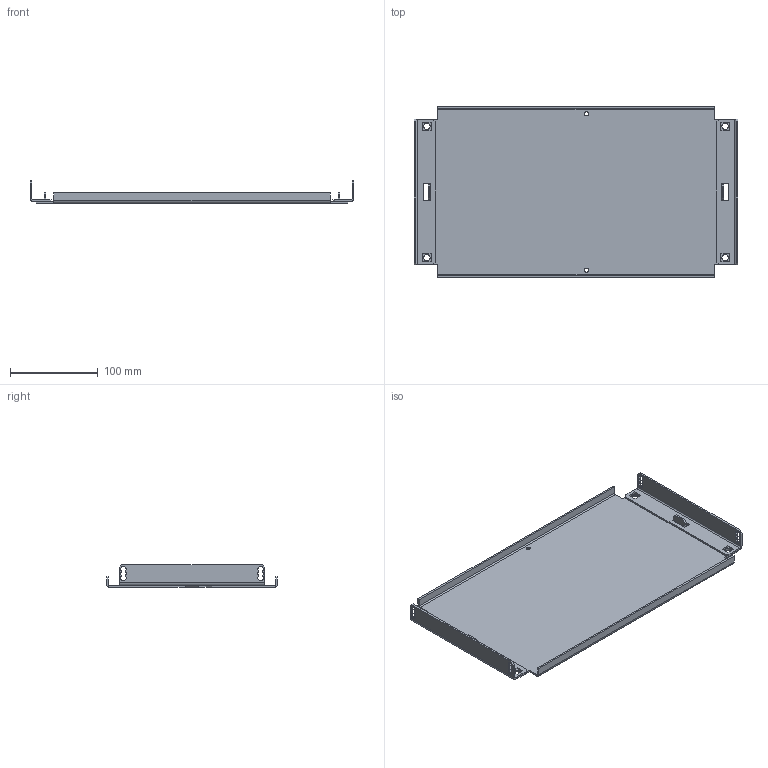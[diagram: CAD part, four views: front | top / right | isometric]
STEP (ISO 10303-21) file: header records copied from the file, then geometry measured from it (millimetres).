
FILE_DESCRIPTION(('STEP AP203'), '1');
FILE_NAME('Ïàíåëü ìîíòàæíàÿ ãëóõàÿ Â200õØ400 ìì OptiBox M 419098 ÊÝÀÇ', '', ('UNSPECIFIED'), ('UNSPECIFIED'), 'C3D Converter', 'C3D Toolkit', '');
FILE_SCHEMA(('CONFIG_CONTROL_DESIGN'));
Length unit declared in the file: millimetre
Bounding box: 369.2 x 195 x 26 mm (x, y, z)
Volume: 173849.2 mm3; surface area: 179080.8 mm2
Topology: 3 solids, 3 shells, 152 faces, 398 edges, 252 vertices
Faces by surface type: plane 118, cylinder 34
Full cylindrical faces by diameter (mm): 4.6 x2, 7.3 x4
Entity records: 5892 total; most frequent: CARTESIAN_POINT 797, ORIENTED_EDGE 784, DIRECTION 766, EDGE_CURVE 392, LINE 324, VECTOR 324, VERTEX_POINT 252, AXIS2_PLACEMENT_3D 221
